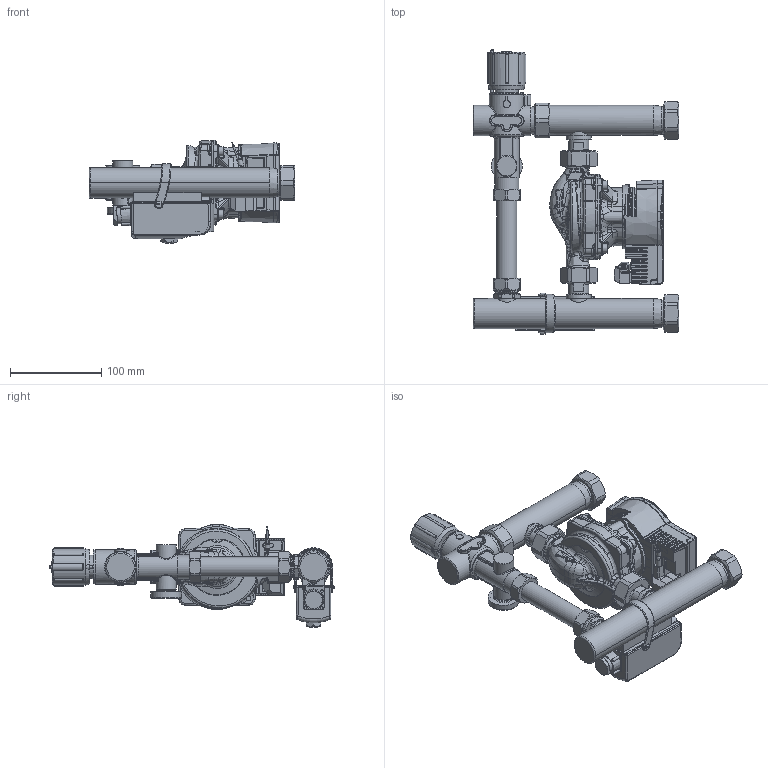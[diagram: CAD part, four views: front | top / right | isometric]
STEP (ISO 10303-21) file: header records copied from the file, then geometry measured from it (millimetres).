
FILE_DESCRIPTION(/* description */ ('Isotherm 30-50 ParaSCU/6 10084162'),/* implementation_level */ '2;1');
FILE_NAME(/* name */ '10084162_simplified.stp',/* time_stamp */ '2024-02-23T16:01:18+01:00',/* author */ ('Fabian Steinle'),/* organization */ ('Watts Industries Deutschland GmbH'),/* preprocessor_version */ 'ST-DEVELOPER v20',/* originating_system */ 'Autodesk Inventor 2024',/* authorisation */ 'Marco Cattarius');
FILE_SCHEMA (('CONFIG_CONTROL_DESIGN'));
Length unit declared in the file: millimetre
Products named in the file (1): WIDE90011715
Bounding box: 226 x 311.85 x 113.15 mm (x, y, z)
Volume: 1484873.1 mm3; surface area: 219555.6 mm2
Topology: 9 solids, 40 shells, 5045 faces, 12830 edges, 7997 vertices
Faces by surface type: plane 1961, bspline 1268, cylinder 1086, cone 383, torus 237, sphere 110
Full cylindrical faces by diameter (mm): 1 x3, 1.05 x1, 1.4 x3, 2 x5, 2.5 x1, 2.601 x1, 2.8 x1, 3 x2, 3.1 x1, 4.5 x1, 5 x2, 5.7 x2, 5.9 x1, 6 x5, 7.5 x1, 8 x1, 10 x4, 10.5 x1, 11.34 x1, 12.3 x1, 14 x1, 15 x1, 16 x1, 18 x1, 22 x6, 25.5 x1, 26.441 x2, 27.3 x2, 28 x1, 30 x5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
Entity records: 236436 total; most frequent: CARTESIAN_POINT 116065, ORIENTED_EDGE 25486, DIRECTION 22205, EDGE_CURVE 12743, AXIS2_PLACEMENT_3D 8143, VERTEX_POINT 7997, LINE 5919, VECTOR 5919
